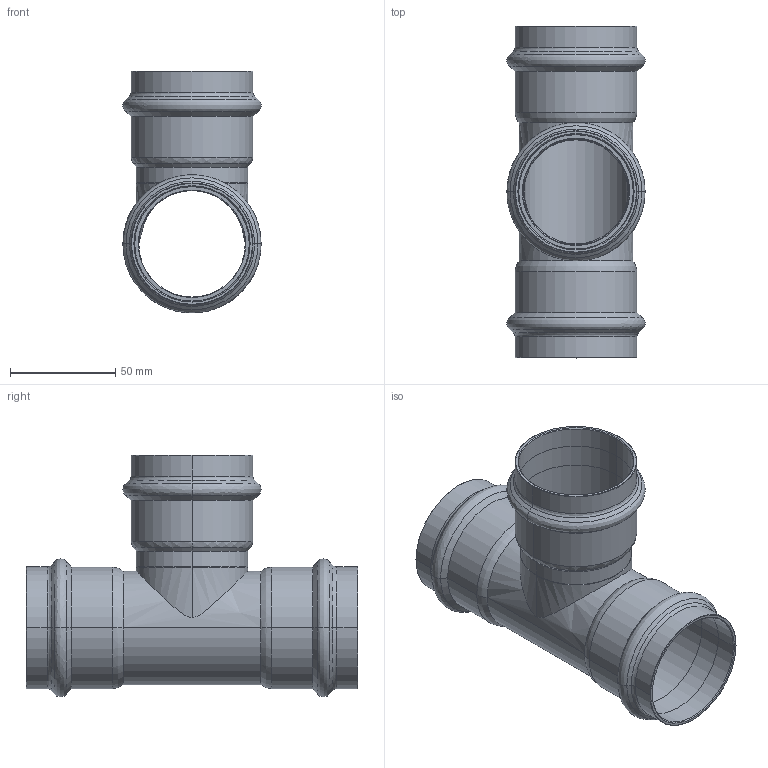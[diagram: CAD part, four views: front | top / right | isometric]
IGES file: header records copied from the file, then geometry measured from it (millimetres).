
Start section: Elysium IGES Interface
Global section: file name: C:\Users\Wallenburg\Desktop\3d modellen sudo\S-Pr VP\SP6130V\6130VW54.igs; native system: CoCreate Modeling 17.00A  17-Jun-2010; preprocessor: CoCreate IGES_3D V2.2; author: Unknown; organization: Unknown; date: 20130117.130917; units: millimetre
Bounding box: 65.68 x 157.73 x 114.96 mm (x, y, z)
Volume: 76386.5 mm3; surface area: 76173.5 mm2
Topology: 1 solids, 1 shells, 128 faces, 261 edges, 143 vertices
Faces by surface type: bspline 128
